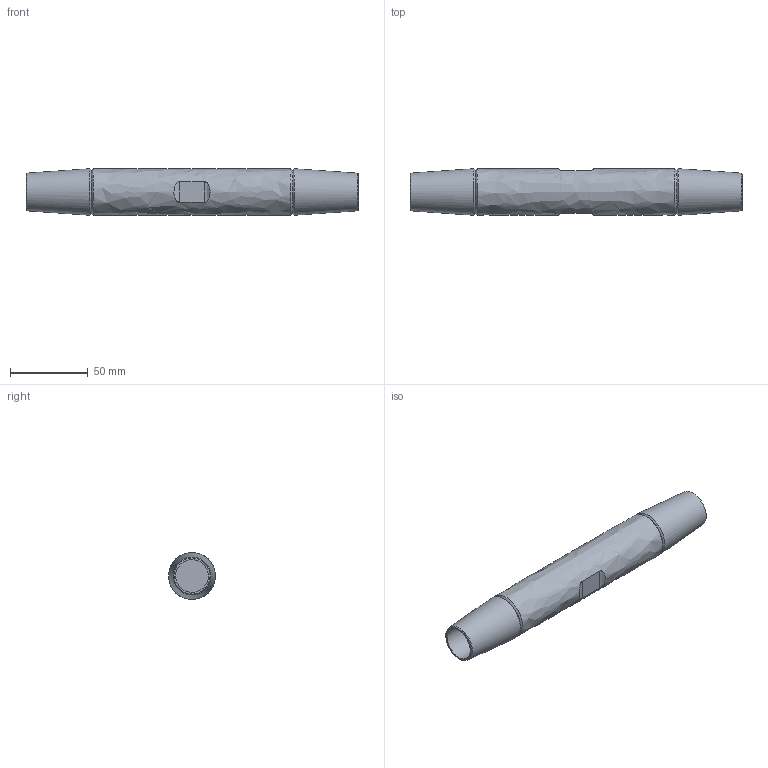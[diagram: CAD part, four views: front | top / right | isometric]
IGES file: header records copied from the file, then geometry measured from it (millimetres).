
Global section: file name: 520-020-MUF; native system: Autodesk Inventor 2016; preprocessor: unknown; author: Administrator; date: 20200630.131246; units: centimetre
Bounding box: 213 x 30 x 30 mm (x, y, z)
Volume: 116820.3 mm3; surface area: 24544.7 mm2
Topology: 1 solids, 1 shells, 21 faces, 52 edges, 36 vertices
Faces by surface type: bspline 21
